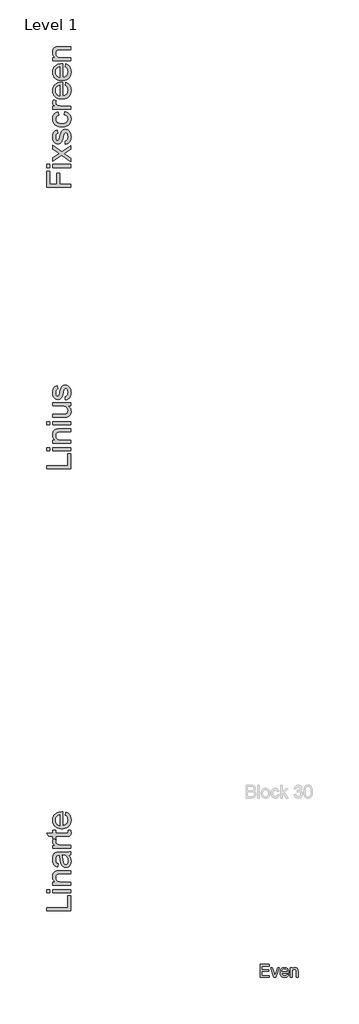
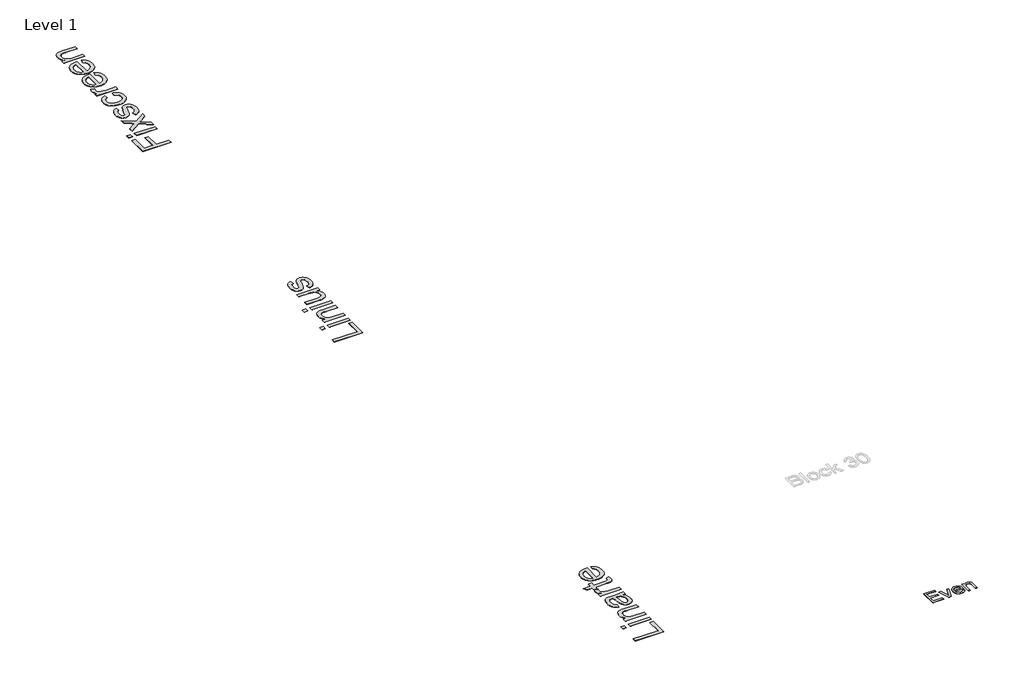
# One storey, part 54 of 69: 4 proxies.
"""IFC4 building model written with IfcOpenShell, lengths in millimetres."""

from ifc_helpers import new_model, si_unit, origin, origin_with_axes, place, context, project, spatial, polyline, outline, extrude, element, save

model = new_model("IFC4")

# Units and contexts
model_context = context("Model", 3, world=origin())
ifc_project = project(units=[si_unit("LENGTHUNIT", "METRE", prefix="MILLI")], contexts=[model_context])

# Site, building, storey
site = spatial("IfcSite", under=ifc_project)
building = spatial("IfcBuilding", under=site)
storey = spatial("IfcBuildingStorey", under=building, Name="Level 1", Elevation=0.0)

# Proxies
placement = place(None, origin())
element("IfcBuildingElementProxy", 1, Name="1500mm", ObjectType="1500mm", at=placement, inside=storey, context=model_context, shape_type="SweptSolid", body=[
    extrude(outline(polyline([(184838.2731482, 54743.6540589), (183331.428496, 54743.6540589), (183331.428496, 55756.0653096), (183519.7840775, 55756.0653096), (183519.7840775, 54932.0096405), (183967.1285837, 54932.0096405), (183967.1285837, 55638.3430712), (184155.4841652, 55638.3430712), (184155.4841652, 54932.0096405), (184838.2731482, 54932.0096405), (184838.2731482, 54743.6540589)])), origin_with_axes(), (0.0, 0.0, 1.0), 5.0),
    extrude(outline(polyline([(184838.2731482, 55991.5097866), (183731.6841067, 55991.5097866), (183731.6841067, 56179.8653681), (184838.2731482, 56179.8653681), (184838.2731482, 55991.5097866)])), origin_with_axes(), (0.0, 0.0, 1.0), 5.0),
    extrude(outline(polyline([(183519.7840775, 55991.5097866), (183331.428496, 55991.5097866), (183331.428496, 56179.8653681), (183519.7840775, 56179.8653681), (183519.7840775, 55991.5097866)])), origin_with_axes(), (0.0, 0.0, 1.0), 5.0),
    extrude(outline(polyline([(184838.2731482, 56344.6765019), (184282.0355715, 56747.1394047), (183731.6841067, 56368.2209496), (183731.6841067, 56594.8362586), (183996.5591433, 56777.6736103), (184121.6390216, 56863.0222331), (184019.367827, 56936.9665142), (183731.6841067, 57145.1877234), (183731.6841067, 57371.8030325), (184282.0355715, 56973.7547137), (184838.2731482, 57357.0877527), (184838.2731482, 57130.4724436), (184503.8684146, 56899.8104327), (184442.8000034, 56857.5040032), (184838.2731482, 56571.291811), (184838.2731482, 56344.6765019)])), origin_with_axes(), (0.0, 0.0, 1.0), 5.0),
    extrude(outline(polyline([(184508.6508806, 57451.2655434), (184485.1064329, 57639.621125), (184528.0566558, 57651.0024742), (184565.6725898, 57669.3275961), (184597.9542349, 57694.5964906), (184624.901591, 57726.8091578), (184646.1467763, 57766.0575682), (184661.3219086, 57812.4336922), (184670.4269879, 57865.9375299), (184673.4620144, 57926.5690812), (184670.6799068, 57987.1316546), (184662.333584, 58039.3249127), (184648.4230461, 58083.1488554), (184628.948293, 58118.6034827), (184605.725742, 58145.9647061), (184580.5718106, 58165.5084371), (184553.4864987, 58177.2346757), (184524.4698063, 58181.1434219), (184499.0399634, 58177.211683), (184476.461206, 58165.4164666), (184456.733534, 58145.7577724), (184439.8569475, 58118.2356007), (184415.9446178, 58047.6942281), (184386.1461762, 57924.3617892), (184336.4361216, 57752.468927), (184314.3057203, 57689.0782607), (184293.9917364, 57640.7247709), (184272.7120622, 57602.3615766), (184247.6845902, 57568.9417966), (184218.9093204, 57540.4654309), (184186.3862528, 57516.9324796), (184151.0925739, 57498.5038909), (184114.0054702, 57485.3406132), (184075.1249419, 57477.4426466), (184034.4509888, 57474.8099911), (183997.2604183, 57476.9253126), (183961.472398, 57483.271277), (183927.0869277, 57493.8478844), (183894.1040076, 57508.6551347), (183863.1904237, 57527.1182123), (183835.0129621, 57548.6623016), (183809.5716229, 57573.2874027), (183786.866406, 57600.9935155), (183756.5621267, 57653.0028325), (183731.1322837, 57720.7391049), (183713.8878152, 57799.0519846), (183708.1396591, 57882.7911238), (183710.4504178, 57946.0898196), (183717.3826942, 58005.3877987), (183728.9364881, 58060.6850611), (183745.1117996, 58111.9816068), (183765.2303462, 58158.0588267), (183788.6138455, 58197.6981116), (183815.2622975, 58230.8994617), (183845.1757023, 58257.6628768), (183879.4002241, 58279.3679146), (183918.9820275, 58297.3941323), (183963.9211125, 58311.7415301), (184014.217479, 58322.410108), (184037.7619267, 58134.0545265), (184006.2965198, 58125.0759065), (183978.4869403, 58110.2801525), (183954.333188, 58089.6672645), (183933.8352631, 58063.2372424), (183917.4990032, 58030.8751231), (183905.8302462, 57992.4659436), (183898.828992, 57948.0097037), (183896.4952406, 57897.5064036), (183898.7255252, 57838.9211958), (183905.416379, 57789.349097), (183916.5678019, 57748.790107), (183932.1797941, 57717.2442259), (183950.7578349, 57693.5848151), (183970.8074036, 57676.685236), (183992.3285003, 57666.5454885), (184015.321125, 57663.1655726), (184044.2918321, 57668.7757731), (184070.1355423, 57685.6063743), (184093.2201375, 57714.3931405), (184111.7062078, 57755.8718354), (184151.8053452, 57918.1077953), (184201.0095621, 58084.5284129), (184240.4649061, 58194.5711147), (184259.7097329, 58233.2906947), (184282.863306, 58267.5956907), (184309.9256253, 58297.4861028), (184340.8966908, 58322.961931), (184375.8224877, 58343.3219002), (184414.7490013, 58357.8647353), (184457.6762316, 58366.5904364), (184504.6041786, 58369.4990034), (184551.7390592, 58366.0845986), (184597.4943824, 58355.8413843), (184641.8701481, 58338.7693605), (184684.8663562, 58314.8685271), (184724.7700564, 58284.5297588), (184759.868298, 58248.1439302), (184790.1610811, 58205.7110413), (184815.6484055, 58157.2310922), (184835.8474263, 58104.0261586), (184850.2752983, 58047.4183166), (184858.9320215, 57987.4075661), (184861.8175959, 57923.9939072), (184856.2533807, 57822.6194249), (184849.2981118, 57776.7433905), (184839.5607352, 57734.0748272), (184827.0412511, 57694.6137351), (184811.7396593, 57658.3601141), (184793.65596, 57625.3139642), (184772.7901531, 57595.4752855), (184749.1882238, 57568.5164331), (184722.8961575, 57544.109762), (184693.9139541, 57522.2552722), (184662.2416135, 57502.9529637), (184627.8791359, 57486.2028367), (184590.8265212, 57472.0048909), (184508.6508806, 57451.2655434)])), origin_with_axes(), (0.0, 0.0, 1.0), 5.0),
    extrude(outline(polyline([(184438.0175375, 59287.7324633), (184461.5619852, 59476.0880449), (184507.2799453, 59467.2876178), (184550.4399759, 59455.6016163), (184591.0420771, 59441.0300404), (184629.0862487, 59423.5728901), (184664.5724909, 59403.2301654), (184697.5008035, 59380.0018663), (184727.8711867, 59353.8879928), (184755.6836403, 59324.8885449), (184780.5587862, 59293.5840863), (184802.1172459, 59260.5551809), (184820.3590195, 59225.8018287), (184835.284107, 59189.3240296), (184846.8925084, 59151.1217837), (184855.1842237, 59111.1950909), (184860.1592529, 59069.5439513), (184861.8175959, 59026.1683648), (184859.5039631, 58971.9833706), (184852.5630645, 58920.5287506), (184840.9949002, 58871.8045048), (184824.7994702, 58825.8106331), (184803.9767744, 58782.5471357), (184778.526813, 58742.0140124), (184748.4495858, 58704.2112634), (184713.7450929, 58669.1388885), (184674.7179865, 58637.5383999), (184631.672919, 58610.1513098), (184584.6098903, 58586.9776182), (184533.5289005, 58568.017325), (184478.4299495, 58553.2704304), (184419.3130373, 58542.7369342), (184356.1781639, 58536.4168365), (184289.0253294, 58534.3101372), (184202.4236085, 58537.908483), (184121.4090954, 58548.7035203), (184045.9817901, 58566.6952491), (183976.1416925, 58591.8836695), (183913.2913529, 58624.441226), (183858.8333213, 58664.5403635), (183812.7675977, 58712.1810819), (183775.0941822, 58767.3633812), (183745.8015783, 58827.5925616), (183724.8782898, 58890.3739233), (183712.3243167, 58955.7074664), (183708.1396591, 59023.5931908), (183713.8878152, 59107.1598853), (183721.0730104, 59145.9513172), (183731.1322837, 59182.748139), (183744.0656351, 59217.5503505), (183759.8730646, 59250.3579519), (183778.5545722, 59281.1709431), (183800.1101578, 59309.9893241), (183824.3098953, 59336.560176), (183850.9238584, 59360.63058), (183879.9520471, 59382.200536), (183911.3944614, 59401.2700441), (183945.2511013, 59417.8391043), (183981.5219667, 59431.9077165), (184061.3063744, 59452.5435972), (184084.8508221, 59264.1880157), (184040.8544348, 59249.4842322), (184002.6751814, 59230.0209753), (183970.3130622, 59205.7982452), (183943.768077, 59176.8160418), (183923.086211, 59143.810129), (183908.3134497, 59107.516271), (183899.4497929, 59067.9344675), (183896.4952406, 59025.0647188), (183902.3123746, 58961.0647479), (183909.5837922, 58931.4186325), (183919.7637768, 58903.3417636), (183932.8523284, 58876.8341414), (183948.849447, 58851.8957659), (183967.7551327, 58828.5266369), (183989.5693854, 58806.7267546), (184014.5278795, 58787.0249494), (184042.8662894, 58769.9500514), (184074.5846152, 58755.5020609), (184109.6828568, 58743.6809777), (184148.1610142, 58734.4868019), (184190.0190875, 58727.9195335), (184283.8749815, 58722.6657188), (184379.1449219, 58727.8045704), (184421.5289515, 58734.2281349), (184460.4123539, 58743.2211252), (184495.7951293, 58754.7835414), (184527.6772775, 58768.9153833), (184556.0587986, 58785.6166511), (184580.9396926, 58804.8873447), (184602.6246118, 58826.2331226), (184621.4182084, 58849.1596435), (184637.3204824, 58873.6669074), (184650.3314339, 58899.7549142), (184660.4510629, 58927.4236639), (184667.6793693, 58956.6731566), (184673.4620144, 59019.9143709), (184669.8521723, 59070.8775235), (184659.0226461, 59117.4490848), (184640.9734357, 59159.6290548), (184615.7045412, 59197.4174335), (184582.940051, 59229.7565602), (184542.4040536, 59255.588774), (184494.0965491, 59274.9140751), (184438.0175375, 59287.7324633)])), origin_with_axes(), (0.0, 0.0, 1.0), 5.0),
    extrude(outline(polyline([(184838.2731482, 59640.8991787), (183731.6841067, 59640.8991787), (183731.6841067, 59805.7103126), (183895.3915946, 59805.7103126), (183843.0603808, 59836.7503559), (183800.4780398, 59866.5947828), (183767.6445718, 59895.2435931), (183744.5599766, 59922.696787), (183728.6260877, 59950.1959662), (183717.2447384, 59978.9827323), (183710.4159289, 60009.0570854), (183708.1396591, 60040.4190255), (183711.7724938, 60087.1400389), (183722.6709979, 60134.2289342), (183740.8351714, 60181.6857116), (183766.2650143, 60229.510371), (183935.1228501, 60166.6025498), (183918.2232709, 60133.4931703), (183906.152143, 60100.3837907), (183898.9094662, 60067.2744111), (183896.4952406, 60034.1650316), (183898.8174957, 60005.2977912), (183905.784261, 59977.9250715), (183917.3955364, 59952.0468724), (183933.6513221, 59927.663194), (183954.0227876, 59905.6937411), (183977.9811025, 59887.0582187), (184005.5262669, 59871.756627), (184036.6582807, 59859.7889658), (184088.0697896, 59846.4302509), (184141.8725314, 59836.8883116), (184198.0665061, 59831.1631481), (184256.6517139, 59829.2547602), (184838.2731482, 59829.2547602), (184838.2731482, 59640.8991787)])), origin_with_axes(), (0.0, 0.0, 1.0), 5.0),
    extrude(outline(polyline([(184508.6508806, 61121.9920913), (184532.1953282, 61306.6688529), (184606.1626019, 61278.3534356), (184639.8525452, 61260.4795439), (184671.3466929, 61240.128197), (184700.6450449, 61217.2993947), (184727.7476013, 61191.9931372), (184752.654362, 61164.2094243), (184775.3653271, 61133.9482561), (184795.6275776, 61101.3590847), (184813.1881947, 61066.5913621), (184828.0471784, 61029.6450883), (184840.2045287, 60990.5202633), (184856.4143291, 60905.7349597), (184861.8175959, 60812.2354514), (184859.4867186, 60752.2074564), (184852.4940866, 60695.36394), (184840.8397, 60641.7049021), (184824.5235587, 60591.2303428), (184803.5456627, 60543.9402619), (184777.9060121, 60499.8346596), (184747.6046068, 60458.9135358), (184712.6414469, 60421.1768905), (184673.4706366, 60387.2915098), (184630.5462804, 60357.9241799), (184583.8683782, 60333.0749008), (184533.43693, 60312.7436724), (184479.2519358, 60296.9304948), (184421.3133956, 60285.6353679), (184359.6213095, 60278.8582918), (184294.1756774, 60276.5992664), (184226.5026347, 60278.8812844), (184162.726842, 60285.7273384), (184102.8482991, 60297.1374284), (184046.8670061, 60313.1115544), (183994.782963, 60333.6497164), (183946.5961698, 60358.7519144), (183902.3066265, 60388.4181484), (183861.914333, 60422.6484185), (183825.8733938, 60460.5172713), (183794.6379132, 60501.0992539), (183768.2078911, 60544.3943662), (183746.5833275, 60590.4026083), (183729.7642226, 60639.12398), (183717.7505762, 60690.5584815), (183710.5423883, 60744.7061126), (183708.1396591, 60801.5668735), (183710.5366402, 60856.5681059), (183717.7275836, 60908.9999124), (183729.7124892, 60958.8622931), (183746.491357, 61006.1552481), (183768.0641872, 61050.8787772), (183794.4309795, 61093.0328805), (183825.5917342, 61132.617558), (183861.546451, 61169.6328097), (183901.846774, 61203.1301898), (183946.0443468, 61232.1612525), (183994.1391695, 61256.725998), (184046.1312421, 61276.824426), (184102.0205646, 61292.4565367), (184161.807137, 61303.6223301), (184225.4909592, 61310.3218061), (184293.0720314, 61312.5549648), (184343.8397467, 61311.4513188), (184343.8397467, 60464.9548479), (184419.0026369, 60475.8648483), (184453.0834548, 60485.3636764), (184484.8305214, 60497.5583897), (184514.2438365, 60512.4489883), (184541.3234003, 60530.0354721), (184566.0692126, 60550.3178412), (184588.4812735, 60573.2960955), (184625.6603476, 60624.9490269), (184652.2168292, 60682.6030333), (184668.1507181, 60746.2581148), (184673.4620144, 60815.9142713), (184671.0018036, 60868.0155589), (184663.621171, 60916.162115), (184651.3201168, 60960.3539397), (184634.0986409, 61000.5910329), (184611.4968908, 61036.8733947), (184583.0550141, 61069.201025), (184548.7730107, 61097.5739239), (184508.6508806, 61121.9920913)]), holes=[polyline([(184155.4841652, 60464.9548479), (184155.4841652, 61124.1993833), (184102.1872611, 61114.5194883), (184055.9720855, 61098.7235551), (184016.8386383, 61076.8115838), (183984.7869194, 61048.7835743), (183964.0935572, 61023.9860285), (183946.1593099, 60997.4180507), (183930.9841776, 60969.0796407), (183918.5681603, 60938.9707987), (183902.0134705, 60873.4418183), (183896.4952406, 60800.8311095), (183900.8983282, 60734.6008541), (183914.1075911, 60673.8658359), (183936.1230292, 60618.6260551), (183966.9446427, 60568.8815115), (184005.1468886, 60527.1384014), (184049.3042243, 60495.9029208), (184099.4166499, 60475.1750696), (184155.4841652, 60464.9548479)])]), origin_with_axes(), (0.0, 0.0, 1.0), 5.0),
    extrude(outline(polyline([(184508.6508806, 62275.6700282), (184532.1953282, 62460.3467897), (184606.1626019, 62432.0313724), (184639.8525452, 62414.1574808), (184671.3466929, 62393.8061339), (184700.6450449, 62370.9773316), (184727.7476013, 62345.6710741), (184752.654362, 62317.8873612), (184775.3653271, 62287.626193), (184795.6275776, 62255.0370216), (184813.1881947, 62220.269299), (184828.0471784, 62183.3230251), (184840.2045287, 62144.1982001), (184856.4143291, 62059.4128966), (184861.8175959, 61965.9133882), (184859.4867186, 61905.8853933), (184852.4940866, 61849.0418769), (184840.8397, 61795.382839), (184824.5235587, 61744.9082796), (184803.5456627, 61697.6181988), (184777.9060121, 61653.5125965), (184747.6046068, 61612.5914726), (184712.6414469, 61574.8548274), (184673.4706366, 61540.9694467), (184630.5462804, 61511.6021168), (184583.8683782, 61486.7528377), (184533.43693, 61466.4216093), (184479.2519358, 61450.6084316), (184421.3133956, 61439.3133048), (184359.6213095, 61432.5362286), (184294.1756774, 61430.2772033), (184226.5026347, 61432.5592213), (184162.726842, 61439.4052753), (184102.8482991, 61450.8153653), (184046.8670061, 61466.7894913), (183994.782963, 61487.3276533), (183946.5961698, 61512.4298513), (183902.3066265, 61542.0960853), (183861.914333, 61576.3263553), (183825.8733938, 61614.1952082), (183794.6379132, 61654.7771908), (183768.2078911, 61698.0723031), (183746.5833275, 61744.0805451), (183729.7642226, 61792.8019169), (183717.7505762, 61844.2364183), (183710.5423883, 61898.3840495), (183708.1396591, 61955.2448104), (183710.5366402, 62010.2460427), (183717.7275836, 62062.6778493), (183729.7124892, 62112.54023), (183746.491357, 62159.8331849), (183768.0641872, 62204.5567141), (183794.4309795, 62246.7108174), (183825.5917342, 62286.2954949), (183861.546451, 62323.3107465), (183901.846774, 62356.8081267), (183946.0443468, 62385.8391894), (183994.1391695, 62410.4039348), (184046.1312421, 62430.5023629), (184102.0205646, 62446.1344736), (184161.807137, 62457.300267), (184225.4909592, 62463.999743), (184293.0720314, 62466.2329017), (184343.8397467, 62465.1292557), (184343.8397467, 61618.6327848), (184419.0026369, 61629.5427852), (184453.0834548, 61639.0416133), (184484.8305214, 61651.2363266), (184514.2438365, 61666.1269252), (184541.3234003, 61683.713409), (184566.0692126, 61703.9957781), (184588.4812735, 61726.9740324), (184625.6603476, 61778.6269637), (184652.2168292, 61836.2809702), (184668.1507181, 61899.9360517), (184673.4620144, 61969.5922082), (184671.0018036, 62021.6934957), (184663.621171, 62069.8400519), (184651.3201168, 62114.0318765), (184634.0986409, 62154.2689698), (184611.4968908, 62190.5513315), (184583.0550141, 62222.8789619), (184548.7730107, 62251.2518607), (184508.6508806, 62275.6700282)]), holes=[polyline([(184155.4841652, 61618.6327848), (184155.4841652, 62277.8773201), (184102.1872611, 62268.1974251), (184055.9720855, 62252.401492), (184016.8386383, 62230.4895206), (183984.7869194, 62202.4615111), (183964.0935572, 62177.6639654), (183946.1593099, 62151.0959876), (183930.9841776, 62122.7575776), (183918.5681603, 62092.6487356), (183902.0134705, 62027.1197552), (183896.4952406, 61954.5090464), (183900.8983282, 61888.2787909), (183914.1075911, 61827.5437728), (183936.1230292, 61772.303992), (183966.9446427, 61722.5594484), (184005.1468886, 61680.8163383), (184049.3042243, 61649.5808576), (184099.4166499, 61628.8530065), (184155.4841652, 61618.6327848)])]), origin_with_axes(), (0.0, 0.0, 1.0), 5.0),
    extrude(outline(polyline([(184838.2731482, 62654.5884832), (183731.6841067, 62654.5884832), (183731.6841067, 62842.9440647), (183886.1945447, 62842.9440647), (183844.4629309, 62874.018597), (183808.2955322, 62908.3810746), (183777.6923488, 62946.0314976), (183752.6533805, 62986.9698658), (183733.1786273, 63031.1961795), (183719.2680894, 63078.7104384), (183710.9217666, 63129.5126427), (183708.1396591, 63183.6027923), (183710.38144, 63231.0020881), (183717.1067827, 63276.4470108), (183728.3156872, 63319.9375604), (183744.0081536, 63361.4737369), (183763.344951, 63399.4805456), (183785.4868485, 63432.3829915), (183810.4338463, 63460.1810748), (183838.1859443, 63482.8747953), (183868.7086536, 63501.5103177), (183901.9674853, 63517.1338061), (183937.9624392, 63529.7452608), (183976.6935155, 63539.3446816), (184048.1545931, 63546.794292), (184158.7951031, 63549.2774955), (184838.2731482, 63549.2774955), (184838.2731482, 63360.9219139), (184184.1789608, 63360.9219139), (184086.7822026, 63355.4956545), (184048.6374382, 63348.7128302), (184017.528417, 63339.2168762), (183991.3283212, 63326.2835248), (183967.9103329, 63309.1885084), (183947.2744522, 63287.9318268), (183929.4206791, 63262.5134802), (183915.0157998, 63233.8071883), (183904.7266002, 63202.6866708), (183898.5530805, 63169.1519276), (183896.4952406, 63133.2029589), (183901.1167581, 63076.008805), (183914.9813108, 63022.8843456), (183938.0888987, 62973.8295808), (183970.4395216, 62928.8445106), (183991.0006762, 62908.7115936), (184015.7119996, 62891.2630655), (184044.5734918, 62876.4989264), (184077.5851527, 62864.4191762), (184114.7469824, 62855.0238149), (184156.0589808, 62848.3128426), (184251.1334839, 62842.9440647), (184838.2731482, 62842.9440647), (184838.2731482, 62654.5884832)])), origin_with_axes(), (0.0, 0.0, 1.0), 5.0),
])
element("IfcBuildingElementProxy", 2, Name="1500mm", ObjectType="1500mm", at=placement, inside=storey, context=model_context, shape_type="SweptSolid", body=[
    extrude(outline(polyline([(184838.2731482, 37163.6833123), (183331.428496, 37163.6833123), (183331.428496, 37352.0388939), (184649.9175667, 37352.0388939), (184649.9175667, 38105.46122), (184838.2731482, 38105.46122), (184838.2731482, 37163.6833123)])), origin_with_axes(), (0.0, 0.0, 1.0), 5.0),
    extrude(outline(polyline([(183519.7840775, 38293.8168015), (183331.428496, 38293.8168015), (183331.428496, 38482.1723831), (183519.7840775, 38482.1723831), (183519.7840775, 38293.8168015)])), origin_with_axes(), (0.0, 0.0, 1.0), 5.0),
    extrude(outline(polyline([(184838.2731482, 38293.8168015), (183731.6841067, 38293.8168015), (183731.6841067, 38482.1723831), (184838.2731482, 38482.1723831), (184838.2731482, 38293.8168015)])), origin_with_axes(), (0.0, 0.0, 1.0), 5.0),
    extrude(outline(polyline([(184838.2731482, 38764.7057553), (183731.6841067, 38764.7057553), (183731.6841067, 38953.0613369), (183886.1945447, 38953.0613369), (183844.4629309, 38984.1358692), (183808.2955322, 39018.4983468), (183777.6923488, 39056.1487697), (183752.6533805, 39097.087138), (183733.1786273, 39141.3134516), (183719.2680894, 39188.8277105), (183710.9217666, 39239.6299148), (183708.1396591, 39293.7200644), (183710.38144, 39341.1193602), (183717.1067827, 39386.5642829), (183728.3156872, 39430.0548326), (183744.0081536, 39471.5910091), (183763.344951, 39509.5978177), (183785.4868485, 39542.5002636), (183810.4338463, 39570.2983469), (183838.1859443, 39592.9920675), (183868.7086536, 39611.6275898), (183901.9674853, 39627.2510783), (183937.9624392, 39639.8625329), (183976.6935155, 39649.4619537), (184048.1545931, 39656.9115641), (184158.7951031, 39659.3947676), (184838.2731482, 39659.3947676), (184838.2731482, 39471.0391861), (184184.1789608, 39471.0391861), (184086.7822026, 39465.6129267), (184048.6374382, 39458.8301024), (184017.528417, 39449.3341484), (183991.3283212, 39436.400797), (183967.9103329, 39419.3057805), (183947.2744522, 39398.049099), (183929.4206791, 39372.6307524), (183915.0157998, 39343.9244604), (183904.7266002, 39312.8039429), (183898.5530805, 39279.2691998), (183896.4952406, 39243.3202311), (183901.1167581, 39186.1260771), (183914.9813108, 39133.0016178), (183938.0888987, 39083.946853), (183970.4395216, 39038.9617828), (183991.0006762, 39018.8288657), (184015.7119996, 39001.3803377), (184044.5734918, 38986.6161985), (184077.5851527, 38974.5364483), (184114.7469824, 38965.1410871), (184156.0589808, 38958.4301147), (184251.1334839, 38953.0613369), (184838.2731482, 38953.0613369), (184838.2731482, 38764.7057553)])), origin_with_axes(), (0.0, 0.0, 1.0), 5.0),
    extrude(outline(polyline([(183519.7840775, 39918.3836922), (183331.428496, 39918.3836922), (183331.428496, 40106.7392738), (183519.7840775, 40106.7392738), (183519.7840775, 39918.3836922)])), origin_with_axes(), (0.0, 0.0, 1.0), 5.0),
    extrude(outline(polyline([(184838.2731482, 39918.3836922), (183731.6841067, 39918.3836922), (183731.6841067, 40106.7392738), (184838.2731482, 40106.7392738), (184838.2731482, 39918.3836922)])), origin_with_axes(), (0.0, 0.0, 1.0), 5.0),
    extrude(outline(polyline([(184838.2731482, 41095.6060768), (184648.0781567, 41095.6060768), (184698.1733378, 41062.9335571), (184741.5891614, 41027.4559372), (184778.3256275, 40989.1732171), (184808.3827361, 40948.0853967), (184831.7604873, 40904.1924762), (184848.458881, 40857.4944554), (184858.4779172, 40807.9913344), (184861.8175959, 40755.6831132), (184859.4723482, 40709.0195814), (184852.436605, 40663.9425407), (184840.7103665, 40620.4519911), (184824.2936324, 40578.5479326), (184804.3360342, 40540.0812714), (184781.987203, 40506.902914), (184757.2471388, 40479.0128602), (184730.1158417, 40456.4111102), (184700.2024369, 40437.9365362), (184667.11605, 40422.4280109), (184630.8566808, 40409.8855341), (184591.4243295, 40400.3091059), (184520.0552224, 40392.031761), (184416.3124998, 40389.272646), (183731.6841067, 40389.272646), (183731.6841067, 40577.6282276), (184327.6529389, 40577.6282276), (184446.8467054, 40580.479313), (184519.6873404, 40589.0325694), (184553.6359508, 40600.3104518), (184583.7447928, 40616.4857633), (184610.0138665, 40637.5585039), (184632.4431719, 40663.5286735), (184650.3889155, 40693.6145229), (184663.2073038, 40727.0343029), (184670.8983367, 40763.7880134), (184673.4620144, 40803.8756546), (184670.8408552, 40845.1589123), (184662.9773775, 40885.1315903), (184649.8715815, 40923.7936887), (184631.5234669, 40961.1452075), (184608.6573017, 40995.1627958), (184581.9973533, 41023.8231025), (184551.5436219, 41047.1261276), (184517.2961074, 41065.0718712), (184477.0705105, 41078.4305861), (184428.6825319, 41087.9725254), (184372.1321714, 41093.6976889), (184307.4194292, 41095.6060768), (183731.6841067, 41095.6060768), (183731.6841067, 41283.9616583), (184838.2731482, 41283.9616583), (184838.2731482, 41095.6060768)])), origin_with_axes(), (0.0, 0.0, 1.0), 5.0),
    extrude(outline(polyline([(184508.6508806, 41472.3172398), (184485.1064329, 41660.6728214), (184528.0566558, 41672.0541706), (184565.6725898, 41690.3792925), (184597.9542349, 41715.648187), (184624.901591, 41747.8608542), (184646.1467763, 41787.1092646), (184661.3219086, 41833.4853886), (184670.4269879, 41886.9892263), (184673.4620144, 41947.6207776), (184670.6799068, 42008.1833511), (184662.333584, 42060.3766091), (184648.4230461, 42104.2005518), (184628.948293, 42139.6551791), (184605.725742, 42167.0164025), (184580.5718106, 42186.5601335), (184553.4864987, 42198.2863721), (184524.4698063, 42202.1951183), (184499.0399634, 42198.2633795), (184476.461206, 42186.468163), (184456.733534, 42166.8094689), (184439.8569475, 42139.2872971), (184415.9446178, 42068.7459245), (184386.1461762, 41945.4134856), (184336.4361216, 41773.5206234), (184314.3057203, 41710.1299571), (184293.9917364, 41661.7764674), (184272.7120622, 41623.4132731), (184247.6845902, 41589.9934931), (184218.9093204, 41561.5171274), (184186.3862528, 41537.984176), (184151.0925739, 41519.5555873), (184114.0054702, 41506.3923097), (184075.1249419, 41498.4943431), (184034.4509888, 41495.8616875), (183997.2604183, 41497.977009), (183961.472398, 41504.3229734), (183927.0869277, 41514.8995808), (183894.1040076, 41529.7068311), (183863.1904237, 41548.1699087), (183835.0129621, 41569.7139981), (183809.5716229, 41594.3390991), (183786.866406, 41622.0452119), (183756.5621267, 41674.054529), (183731.1322837, 41741.7908013), (183713.8878152, 41820.103681), (183708.1396591, 41903.8428202), (183710.4504178, 41967.141516), (183717.3826942, 42026.4394951), (183728.9364881, 42081.7367575), (183745.1117996, 42133.0333032), (183765.2303462, 42179.1105231), (183788.6138455, 42218.7498081), (183815.2622975, 42251.9511581), (183845.1757023, 42278.7145733), (183879.4002241, 42300.419611), (183918.9820275, 42318.4458288), (183963.9211125, 42332.7932266), (184014.217479, 42343.4618044), (184037.7619267, 42155.1062229), (184006.2965198, 42146.127603), (183978.4869403, 42131.331849), (183954.333188, 42110.7189609), (183933.8352631, 42084.2889388), (183917.4990032, 42051.9268196), (183905.8302462, 42013.51764), (183898.828992, 41969.0614001), (183896.4952406, 41918.5581), (183898.7255252, 41859.9728923), (183905.416379, 41810.4007934), (183916.5678019, 41769.8418034), (183932.1797941, 41738.2959224), (183950.7578349, 41714.6365115), (183970.8074036, 41697.7369324), (183992.3285003, 41687.5971849), (184015.321125, 41684.2172691), (184044.2918321, 41689.8274695), (184070.1355423, 41706.6580708), (184093.2201375, 41735.4448369), (184111.7062078, 41776.9235319), (184151.8053452, 41939.1594917), (184201.0095621, 42105.5801093), (184240.4649061, 42215.6228111), (184259.7097329, 42254.3423911), (184282.863306, 42288.6473871), (184309.9256253, 42318.5377993), (184340.8966908, 42344.0136274), (184375.8224877, 42364.3735966), (184414.7490013, 42378.9164317), (184457.6762316, 42387.6421328), (184504.6041786, 42390.5506998), (184551.7390592, 42387.136295), (184597.4943824, 42376.8930807), (184641.8701481, 42359.8210569), (184684.8663562, 42335.9202235), (184724.7700564, 42305.5814552), (184759.868298, 42269.1956266), (184790.1610811, 42226.7627378), (184815.6484055, 42178.2827886), (184835.8474263, 42125.077855), (184850.2752983, 42068.470013), (184858.9320215, 42008.4592626), (184861.8175959, 41945.0456036), (184856.2533807, 41843.6711214), (184849.2981118, 41797.7950869), (184839.5607352, 41755.1265236), (184827.0412511, 41715.6654315), (184811.7396593, 41679.4118105), (184793.65596, 41646.3656607), (184772.7901531, 41616.526982), (184749.1882238, 41589.5681295), (184722.8961575, 41565.1614584), (184693.9139541, 41543.3069686), (184662.2416135, 41524.0046602), (184627.8791359, 41507.2545331), (184590.8265212, 41493.0565873), (184508.6508806, 41472.3172398)])), origin_with_axes(), (0.0, 0.0, 1.0), 5.0),
])
element("IfcBuildingElementProxy", 3, Name="1500mm", ObjectType="1500mm", at=placement, inside=storey, context=model_context, shape_type="SweptSolid", body=[
    extrude(outline(polyline([(184838.2731482, 9555.5360553), (183331.428496, 9555.5360553), (183331.428496, 9743.8916368), (184649.9175667, 9743.8916368), (184649.9175667, 10497.3139629), (184838.2731482, 10497.3139629), (184838.2731482, 9555.5360553)])), origin_with_axes(), (0.0, 0.0, 1.0), 5.0),
    extrude(outline(polyline([(183519.7840775, 10685.6695444), (183331.428496, 10685.6695444), (183331.428496, 10874.025126), (183519.7840775, 10874.025126), (183519.7840775, 10685.6695444)])), origin_with_axes(), (0.0, 0.0, 1.0), 5.0),
    extrude(outline(polyline([(184838.2731482, 10685.6695444), (183731.6841067, 10685.6695444), (183731.6841067, 10874.025126), (184838.2731482, 10874.025126), (184838.2731482, 10685.6695444)])), origin_with_axes(), (0.0, 0.0, 1.0), 5.0),
    extrude(outline(polyline([(184838.2731482, 11156.5584983), (183731.6841067, 11156.5584983), (183731.6841067, 11344.9140798), (183886.1945447, 11344.9140798), (183844.4629309, 11375.9886121), (183808.2955322, 11410.3510897), (183777.6923488, 11448.0015126), (183752.6533805, 11488.9398809), (183733.1786273, 11533.1661945), (183719.2680894, 11580.6804535), (183710.9217666, 11631.4826577), (183708.1396591, 11685.5728073), (183710.38144, 11732.9721032), (183717.1067827, 11778.4170259), (183728.3156872, 11821.9075755), (183744.0081536, 11863.443752), (183763.344951, 11901.4505606), (183785.4868485, 11934.3530066), (183810.4338463, 11962.1510898), (183838.1859443, 11984.8448104), (183868.7086536, 12003.4803327), (183901.9674853, 12019.1038212), (183937.9624392, 12031.7152759), (183976.6935155, 12041.3146967), (184048.1545931, 12048.7643071), (184158.7951031, 12051.2475105), (184838.2731482, 12051.2475105), (184838.2731482, 11862.891929), (184184.1789608, 11862.891929), (184086.7822026, 11857.4656696), (184048.6374382, 11850.6828453), (184017.528417, 11841.1868913), (183991.3283212, 11828.2535399), (183967.9103329, 11811.1585234), (183947.2744522, 11789.9018419), (183929.4206791, 11764.4834953), (183915.0157998, 11735.7772034), (183904.7266002, 11704.6566858), (183898.5530805, 11671.1219427), (183896.4952406, 11635.172974), (183901.1167581, 11577.9788201), (183914.9813108, 11524.8543607), (183938.0888987, 11475.7995959), (183970.4395216, 11430.8145257), (183991.0006762, 11410.6816087), (184015.7119996, 11393.2330806), (184044.5734918, 11378.4689415), (184077.5851527, 11366.3891913), (184114.7469824, 11356.99383), (184156.0589808, 11350.2828577), (184251.1334839, 11344.9140798), (184838.2731482, 11344.9140798), (184838.2731482, 11156.5584983)])), origin_with_axes(), (0.0, 0.0, 1.0), 5.0),
    extrude(outline(polyline([(184697.0064621, 13016.5698659), (184738.9220169, 12971.9066924), (184774.1697106, 12926.5767328), (184802.7495431, 12880.5799871), (184824.6615144, 12833.9164553), (184840.9173001, 12786.057307), (184852.5285755, 12736.4737118), (184859.4953408, 12685.1656698), (184861.8175959, 12632.1331809), (184856.2303881, 12548.2675823), (184849.2463784, 12510.2061662), (184839.4687647, 12474.7256722), (184826.8975472, 12441.8261004), (184811.5327257, 12411.5074506), (184793.3743004, 12383.769723), (184772.4222711, 12358.6129175), (184749.2974388, 12336.2382196), (184724.6206043, 12316.8468147), (184698.3917677, 12300.4387029), (184670.6109289, 12287.0138842), (184641.278088, 12276.5723585), (184610.3932448, 12269.1141259), (184543.9675521, 12263.1475398), (184504.029363, 12265.400817), (184465.8845986, 12272.1606486), (184429.533259, 12283.4270347), (184394.975344, 12299.1999753), (184362.9696105, 12318.6402395), (184334.2748148, 12340.9085965), (184308.8909572, 12366.0050464), (184286.8180375, 12393.929589), (184250.9495429, 12456.239602), (184225.0138623, 12525.8152843), (184210.574494, 12593.5975419), (184196.6869486, 12688.7870082), (184182.4315213, 12792.3917751), (184166.888507, 12881.3732327), (184150.0579058, 12955.7313809), (184131.9397175, 13015.4662199), (184090.00117, 13016.5698659), (184044.3378174, 13013.3279058), (184005.9401341, 13003.6020256), (183974.8081203, 12987.3922251), (183950.9417759, 12964.6985046), (183927.1214167, 12925.4730868), (183910.1068744, 12877.6944127), (183899.898149, 12821.3624822), (183896.4952406, 12756.4772953), (183898.7600141, 12696.1446481), (183905.5543347, 12644.2732868), (183916.8782024, 12600.8632113), (183932.7316171, 12565.9144218), (183954.3561806, 12537.1966335), (183982.9934947, 12512.479562), (184018.6435593, 12491.7632071), (184061.3063744, 12475.047569), (184037.7619267, 12286.6919875), (183983.4993324, 12301.027889), (183934.7549681, 12319.3874998), (183891.5288336, 12341.7708199), (183853.8209291, 12368.1778494), (183820.8724979, 12399.7467231), (183791.9247835, 12437.615576), (183766.9777857, 12481.784408), (183746.0315046, 12532.2532192), (183729.4538221, 12587.9988378), (183717.6126204, 12647.998092), (183710.5078994, 12712.2509817), (183708.1396591, 12780.757507), (183710.2319879, 12847.7235264), (183716.5089744, 12908.0906626), (183726.9706187, 12961.8589154), (183741.6169206, 13009.028285), (183759.4247084, 13049.9896459), (183779.3708104, 13085.1338727), (183801.4552264, 13114.4609655), (183825.6779565, 13137.9709243), (183852.636809, 13157.0318102), (183882.929592, 13173.0116843), (183916.5563056, 13185.9105468), (183953.5169498, 13195.7283975), (184018.632063, 13202.6261849), (184118.3280837, 13204.9254474), (184352.6689146, 13204.9254474), (184556.7974367, 13207.3166804), (184679.8999493, 13214.4903793), (184760.788003, 13228.6538361), (184838.2731482, 13252.0143428), (184838.2731482, 13063.6587613), (184806.8192376, 13046.9201305), (184772.7901531, 13033.4924377), (184736.1858946, 13023.3756828), (184697.0064621, 13016.5698659)]), holes=[polyline([(184320.295299, 13016.5698659), (184336.5970699, 12959.6401271), (184351.6572391, 12890.0184595), (184378.0527723, 12712.6993379), (184392.4921406, 12614.9806829), (184408.5869779, 12550.647319), (184429.4642811, 12508.4788453), (184442.8689813, 12491.498792), (184458.2510472, 12477.254861), (184475.0586559, 12465.9884749), (184492.7399843, 12457.9410562), (184511.2950324, 12453.112605), (184530.7238003, 12451.5031213), (184559.9934115, 12455.0094966), (184586.733834, 12465.5286224), (184610.9450678, 12483.0604987), (184632.6271129, 12507.6051256), (184650.4923823, 12538.9325767), (184663.253289, 12576.8129259), (184670.9098331, 12621.2461731), (184673.4620144, 12672.2323184), (184670.6454179, 12724.2876207), (184662.1956283, 12773.3998671), (184648.1126457, 12819.5690575), (184628.39647, 12862.7951919), (184604.6795776, 12901.7906834), (184578.5944449, 12935.267945), (184550.1410718, 12963.2269766), (184519.3194584, 12985.6677783), (184491.7283088, 12998.7045965), (184458.2510472, 13008.0166095), (184418.8876737, 13013.6038173), (184373.6381883, 13015.4662199), (184320.295299, 13016.5698659)])]), origin_with_axes(), (0.0, 0.0, 1.0), 5.0),
    extrude(outline(polyline([(184838.2731482, 13463.914372), (183731.6841067, 13463.914372), (183731.6841067, 13628.7255059), (183895.3915946, 13628.7255059), (183843.0603808, 13659.7655492), (183800.4780398, 13689.6099761), (183767.6445718, 13718.2587864), (183744.5599766, 13745.7119803), (183728.6260877, 13773.2111595), (183717.2447384, 13801.9979256), (183710.4159289, 13832.0722787), (183708.1396591, 13863.4342188), (183711.7724938, 13910.1552322), (183722.6709979, 13957.2441276), (183740.8351714, 14004.7009049), (183766.2650143, 14052.5255643), (183935.1228501, 13989.6177431), (183918.2232709, 13956.5083636), (183906.152143, 13923.398984), (183898.9094662, 13890.2896044), (183896.4952406, 13857.1802249), (183898.8174957, 13828.3129846), (183905.784261, 13800.9402649), (183917.3955364, 13775.0620658), (183933.6513221, 13750.6783873), (183954.0227876, 13728.7089344), (183977.9811025, 13710.073412), (184005.5262669, 13694.7718203), (184036.6582807, 13682.8041592), (184088.0697896, 13669.4454442), (184141.8725314, 13659.903505), (184198.0665061, 13654.1783414), (184256.6517139, 13652.2699536), (184838.2731482, 13652.2699536), (184838.2731482, 13463.914372)])), origin_with_axes(), (0.0, 0.0, 1.0), 5.0),
    extrude(outline(polyline([(184681.1875363, 14570.5034135), (184843.7913782, 14594.0478612), (184857.3110415, 14519.4597867), (184861.8175959, 14453.1490571), (184859.8632228, 14405.0714788), (184854.0001035, 14362.7420567), (184844.228238, 14326.1607908), (184830.5476263, 14295.3276811), (184813.6940324, 14269.4379857), (184794.4032203, 14247.6869627), (184772.67519, 14230.0746122), (184748.5099414, 14216.6009342), (184716.1133332, 14206.622135), (184669.6912239, 14199.4944214), (184609.2436136, 14195.2177932), (184534.7705022, 14193.7922505), (183920.0396883, 14193.7922505), (183920.0396883, 14052.5255643), (183731.6841067, 14052.5255643), (183731.6841067, 14193.7922505), (183462.7623683, 14193.7922505), (183352.0298877, 14382.147832), (183731.6841067, 14382.147832), (183731.6841067, 14570.5034135), (183920.0396883, 14570.5034135), (183920.0396883, 14382.147832), (184529.2522723, 14382.147832), (184591.2403885, 14384.6310354), (184626.373119, 14392.0806459), (184645.8248795, 14405.0944714), (184660.7700856, 14424.2703204), (184670.2890322, 14451.4476028), (184673.4620144, 14488.4657286), (184681.1875363, 14570.5034135)])), origin_with_axes(), (0.0, 0.0, 1.0), 5.0),
    extrude(outline(polyline([(184508.6508806, 15533.6184769), (184532.1953282, 15718.2952385), (184606.1626019, 15689.9798211), (184639.8525452, 15672.1059295), (184671.3466929, 15651.7545826), (184700.6450449, 15628.9257803), (184727.7476013, 15603.6195228), (184752.654362, 15575.8358099), (184775.3653271, 15545.5746417), (184795.6275776, 15512.9854703), (184813.1881947, 15478.2177477), (184828.0471784, 15441.2714739), (184840.2045287, 15402.1466489), (184856.4143291, 15317.3613453), (184861.8175959, 15223.8618369), (184859.4867186, 15163.833842), (184852.4940866, 15106.9903256), (184840.8397, 15053.3312877), (184824.5235587, 15002.8567283), (184803.5456627, 14955.5666475), (184777.9060121, 14911.4610452), (184747.6046068, 14870.5399214), (184712.6414469, 14832.8032761), (184673.4706366, 14798.9178954), (184630.5462804, 14769.5505655), (184583.8683782, 14744.7012864), (184533.43693, 14724.370058), (184479.2519358, 14708.5568804), (184421.3133956, 14697.2617535), (184359.6213095, 14690.4846773), (184294.1756774, 14688.225652), (184226.5026347, 14690.50767), (184162.726842, 14697.353724), (184102.8482991, 14708.763814), (184046.8670061, 14724.73794), (183994.782963, 14745.276102), (183946.5961698, 14770.3783), (183902.3066265, 14800.044534), (183861.914333, 14834.2748041), (183825.8733938, 14872.1436569), (183794.6379132, 14912.7256395), (183768.2078911, 14956.0207518), (183746.5833275, 15002.0289939), (183729.7642226, 15050.7503656), (183717.7505762, 15102.184867), (183710.5423883, 15156.3324982), (183708.1396591, 15213.1932591), (183710.5366402, 15268.1944914), (183717.7275836, 15320.626298), (183729.7124892, 15370.4886787), (183746.491357, 15417.7816337), (183768.0641872, 15462.5051628), (183794.4309795, 15504.6592661), (183825.5917342, 15544.2439436), (183861.546451, 15581.2591953), (183901.846774, 15614.7565754), (183946.0443468, 15643.7876381), (183994.1391695, 15668.3523835), (184046.1312421, 15688.4508116), (184102.0205646, 15704.0829223), (184161.807137, 15715.2487157), (184225.4909592, 15721.9481917), (184293.0720314, 15724.1813504), (184343.8397467, 15723.0777044), (184343.8397467, 14876.5812335), (184419.0026369, 14887.4912339), (184453.0834548, 14896.990062), (184484.8305214, 14909.1847753), (184514.2438365, 14924.0753739), (184541.3234003, 14941.6618577), (184566.0692126, 14961.9442268), (184588.4812735, 14984.9224811), (184625.6603476, 15036.5754125), (184652.2168292, 15094.2294189), (184668.1507181, 15157.8845004), (184673.4620144, 15227.5406569), (184671.0018036, 15279.6419445), (184663.621171, 15327.7885006), (184651.3201168, 15371.9803253), (184634.0986409, 15412.2174185), (184611.4968908, 15448.4997803), (184583.0550141, 15480.8274106), (184548.7730107, 15509.2003095), (184508.6508806, 15533.6184769)]), holes=[polyline([(184155.4841652, 14876.5812335), (184155.4841652, 15535.8257689), (184102.1872611, 15526.1458739), (184055.9720855, 15510.3499407), (184016.8386383, 15488.4379694), (183984.7869194, 15460.4099598), (183964.0935572, 15435.6124141), (183946.1593099, 15409.0444363), (183930.9841776, 15380.7060263), (183918.5681603, 15350.5971843), (183902.0134705, 15285.0682039), (183896.4952406, 15212.4574951), (183900.8983282, 15146.2272397), (183914.1075911, 15085.4922215), (183936.1230292, 15030.2524407), (183966.9446427, 14980.5078971), (184005.1468886, 14938.764787), (184049.3042243, 14907.5293063), (184099.4166499, 14886.8014552), (184155.4841652, 14876.5812335)])]), origin_with_axes(), (0.0, 0.0, 1.0), 5.0),
])
element("IfcBuildingElementProxy", 4, Name="800mm Arial", ObjectType="800mm Arial", at=placement, inside=storey, context=model_context, shape_type="SweptSolid", body=[
    extrude(outline(polyline([(196670.4162217, 5397.0104743), (196670.4162217, 6196.3991726), (197244.9768487, 6196.3991726), (197244.9768487, 6096.4755853), (196770.339809, 6096.4755853), (196770.339809, 5859.1570655), (197219.9959519, 5859.1570655), (197219.9959519, 5759.2334782), (196770.339809, 5759.2334782), (196770.339809, 5496.9340616), (197257.4672971, 5496.9340616), (197257.4672971, 5397.0104743), (196670.4162217, 5397.0104743)])), origin_with_axes(), (0.0, 0.0, 1.0), 5.0),
    extrude(outline(polyline([(197538.8927129, 5397.0104743), (197332.4099876, 5984.0615496), (197438.1884725, 5984.0615496), (197563.2881199, 5632.3773616), (197600.9546284, 5514.1084282), (197637.8404839, 5625.7418108), (197763.7207843, 5984.0615496), (197869.4992693, 5984.0615496), (197665.5536663, 5397.0104743), (197538.8927129, 5397.0104743)])), origin_with_axes(), (0.0, 0.0, 1.0), 5.0),
    extrude(outline(polyline([(198367.9462262, 5571.8767521), (198465.9181809, 5559.3863037), (198450.896709, 5520.1462914), (198430.6180269, 5485.5658019), (198405.0821346, 5455.6448352), (198374.289032, 5430.3833911), (198338.5558595, 5410.3181688), (198298.1997574, 5395.9858672), (198253.2207257, 5387.3864862), (198203.6187643, 5384.5200259), (198141.6178372, 5389.4661947), (198086.374438, 5404.304701), (198037.8885665, 5429.0355449), (197996.1602227, 5463.6587264), (197962.6043403, 5507.2106268), (197938.6358529, 5558.7276277), (197924.2547604, 5618.2097289), (197919.4610629, 5685.6569306), (197924.3035512, 5755.3912016), (197938.8310161, 5816.8554297), (197963.0434576, 5870.0496148), (197978.7815446, 5893.5454412), (197996.9408757, 5914.9737569), (198038.5594401, 5950.6642374), (198085.9353206, 5976.1574378), (198139.0685172, 5991.453358), (198197.9590298, 5996.5519981), (198254.9527996, 5991.4655557), (198306.4941958, 5976.2062286), (198352.5832186, 5950.7740167), (198393.2198679, 5915.1689201), (198426.3915226, 5870.3423597), (198450.0855617, 5817.2457562), (198464.3019852, 5755.8791098), (198469.040793, 5686.2424203), (198468.4553033, 5659.3098909), (198019.3846502, 5659.3098909), (198025.1724605, 5619.4355981), (198036.6809938, 5584.5135729), (198053.91025, 5554.5438154), (198076.8602292, 5529.5263254), (198104.2623702, 5509.8026388), (198134.8481118, 5495.7142912), (198168.617454, 5487.2612827), (198205.5703968, 5484.4436132), (198258.7523842, 5489.6642303), (198303.5423516, 5505.3260816), (198322.7903277, 5517.3164242), (198339.9402989, 5532.4049834), (198354.992265, 5550.5917594), (198367.9462262, 5571.8767521)]), holes=[polyline([(198019.3846502, 5759.2334782), (198369.1172057, 5759.2334782), (198363.9819725, 5787.507755), (198355.6021502, 5812.0251391), (198343.9777388, 5832.7856305), (198329.1087382, 5849.7892292), (198301.8590685, 5870.2813711), (198270.8525061, 5884.9186154), (198236.0890511, 5893.7009619), (198197.5687033, 5896.6284108), (198162.4332183, 5894.2925505), (198130.2129844, 5887.2849699), (198100.9080017, 5875.6056687), (198074.5182701, 5859.2546472), (198052.3733394, 5838.9881627), (198035.8027591, 5815.5624731), (198024.8065294, 5788.9775783), (198019.3846502, 5759.2334782)])]), origin_with_axes(), (0.0, 0.0, 1.0), 5.0),
    extrude(outline(polyline([(198568.9643803, 5397.0104743), (198568.9643803, 5984.0615496), (198668.8879676, 5984.0615496), (198668.8879676, 5902.0929819), (198685.3731639, 5924.2318138), (198703.6026318, 5943.4188015), (198723.5763714, 5959.6539449), (198745.2943825, 5972.937244), (198768.7566652, 5983.2686989), (198793.9632196, 5990.6483095), (198849.6091431, 5996.5519981), (198898.8634699, 5991.7948937), (198943.9705775, 5977.5235806), (198981.5882952, 5955.5189234), (199008.3744522, 5927.5617869), (199026.5490304, 5893.7253573), (199038.332012, 5854.0828209), (199042.284068, 5816.1723583), (199043.60142, 5757.4770089), (199043.60142, 5397.0104743), (198943.6778327, 5397.0104743), (198943.6778327, 5744.0107442), (198940.7991746, 5795.6802164), (198932.1632005, 5832.4196994), (198916.2329997, 5858.7423436), (198891.4716616, 5879.1612993), (198859.733237, 5892.2616329), (198822.8717769, 5896.6284108), (198792.5299894, 5894.1766724), (198764.3471954, 5886.8214571), (198738.3233949, 5874.5627651), (198714.458588, 5857.4005962), (198694.5214416, 5833.383318), (198680.2806227, 5800.5592978), (198671.7361314, 5758.9285356), (198668.8879676, 5708.4910316), (198668.8879676, 5397.0104743), (198568.9643803, 5397.0104743)])), origin_with_axes(), (0.0, 0.0, 1.0), 5.0),
])

save(model, "model.ifc")
